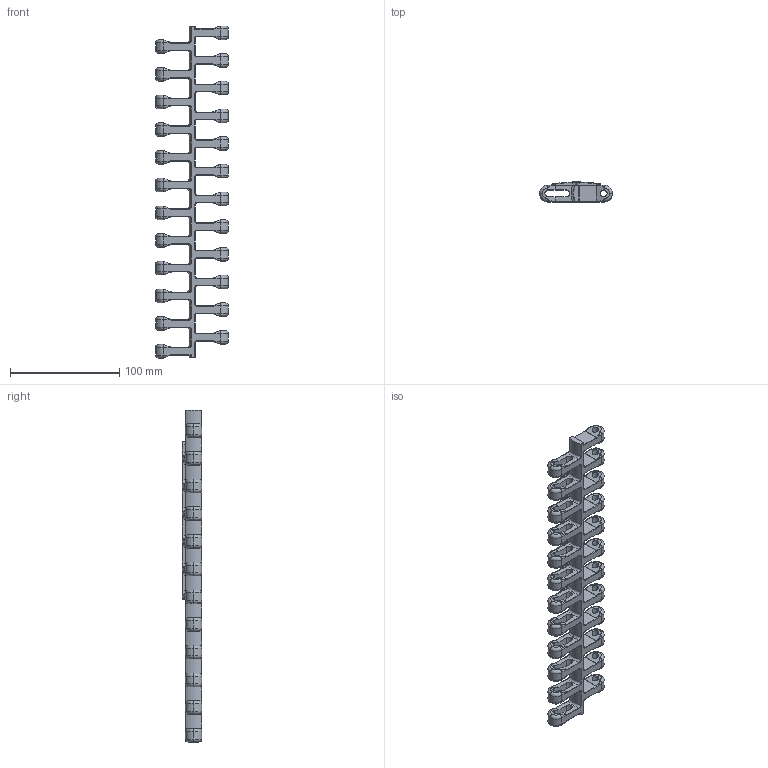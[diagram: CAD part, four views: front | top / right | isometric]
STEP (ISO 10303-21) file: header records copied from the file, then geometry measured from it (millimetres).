
FILE_DESCRIPTION((''),'2;1');
FILE_NAME('K110','2011-09-20T',('JAS'),(''),'PRO/ENGINEER BY PARAMETRIC TECHNOLOGY CORPORATION, 2011080','PRO/ENGINEER BY PARAMETRIC TECHNOLOGY CORPORATION, 2011080','');
FILE_SCHEMA(('AUTOMOTIVE_DESIGN { 1 0 10303 214 1 1 1 1 }'));
Products named in the file (1): K110
Bounding box: 66.8 x 18 x 304.5 mm (x, y, z)
Volume: 98486.9 mm3; surface area: 49813.7 mm2
Topology: 1 solids, 1 shells, 1737 faces, 4362 edges, 2580 vertices
Faces by surface type: cylinder 804, plane 329, torus 316, bspline 270, extrusion 11, sphere 7
Entity records: 106751 total; most frequent: CARTESIAN_POINT 51629, ORIENTED_EDGE 8724, DIRECTION 8382, PRESENTATION_STYLE_ASSIGNMENT 4559, STYLED_ITEM 4363, CURVE_STYLE 4362, EDGE_CURVE 4362, AXIS2_PLACEMENT_3D 3300
